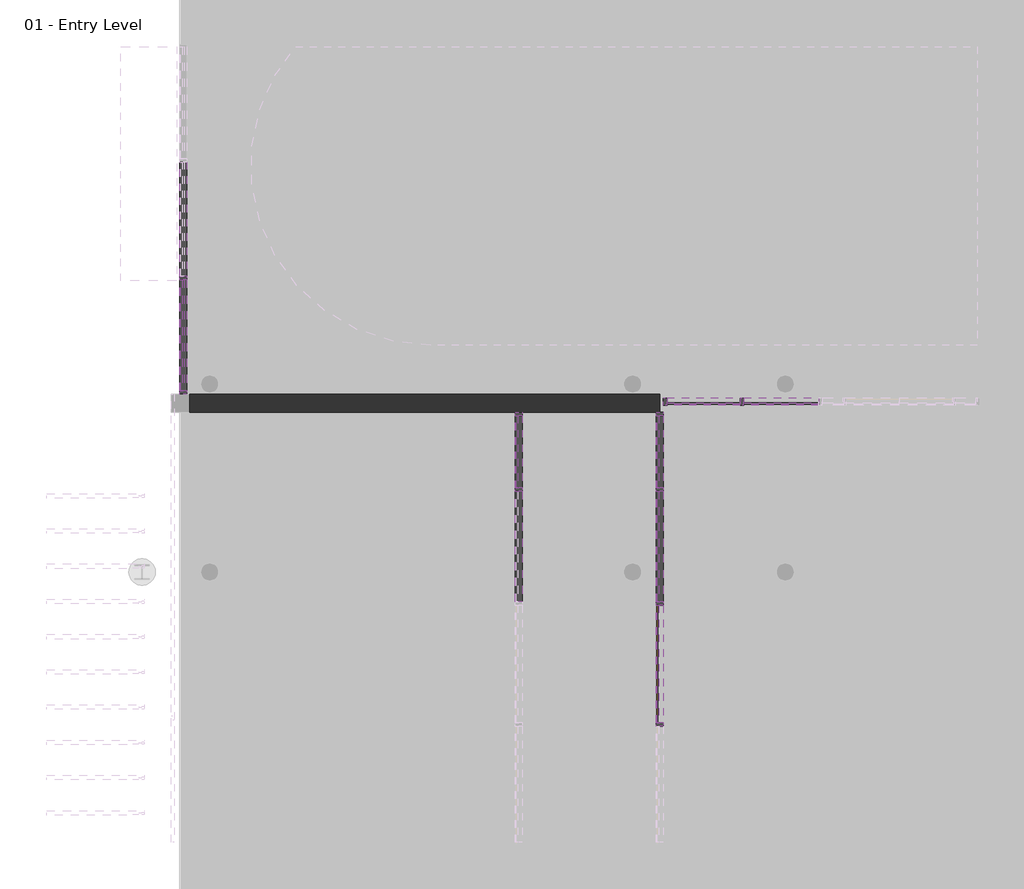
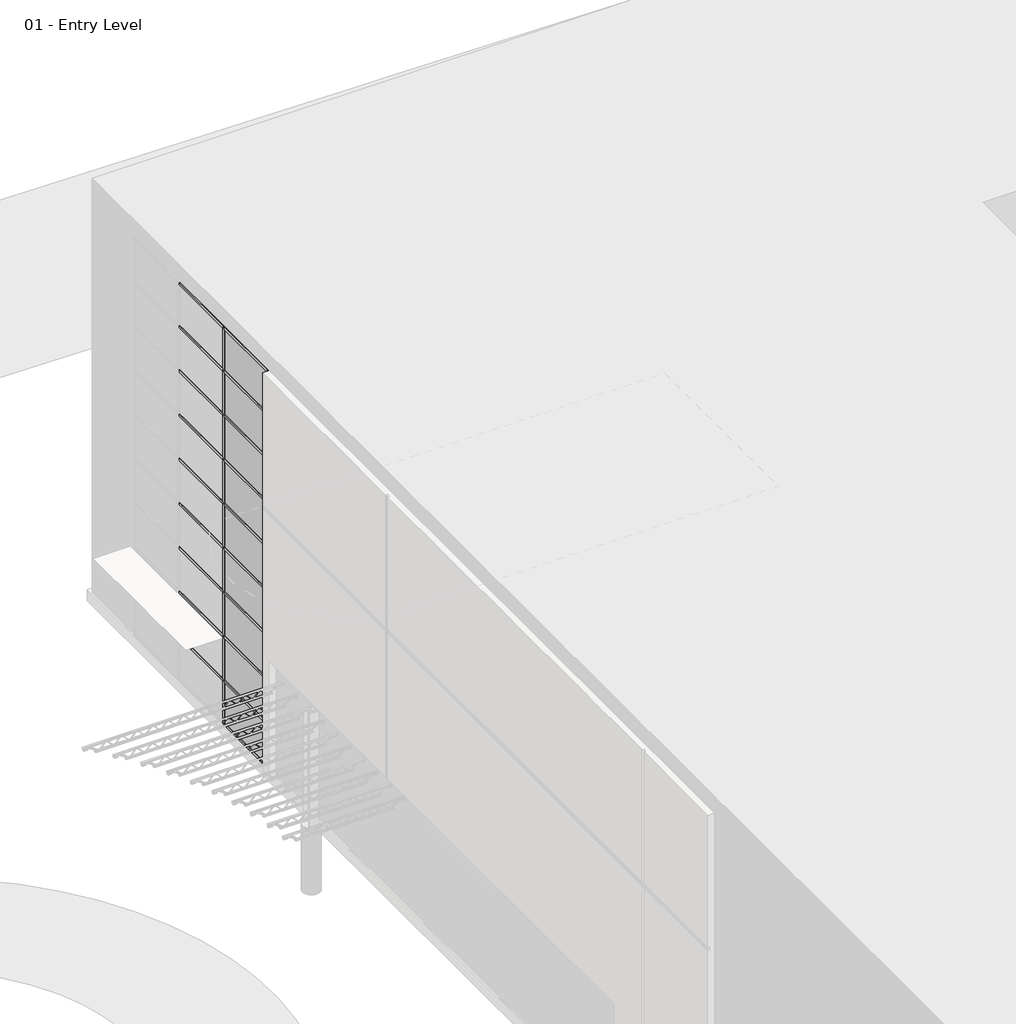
# One storey, part 23 of 34: 92 members, 24 plates, 1 door, 1 wall.
"""IFC4 building model written with IfcOpenShell, lengths in millimetres."""

from ifc_helpers import new_model, si_unit, origin, place, context, project, spatial, faceted_brep, transform, mapped, element, save
from components import curtain_wall_dbl_glass_curtain_wall_dbl_glass_d7d74fe3, member_2b49869a, member_75074519, member_18e22e2d, member_9193c932, member_391b434c, member_9e90ae50, member_71eb4692, member_a1da5be3, member_995c57f6, member_4a2c27e2, member_5d67b9fc, member_a50b3cda, member_c327c56d, member_6186cc23, member_0a82c195, member_a6658832, member_b37ae9b7, member_f95d5bf5, member_ec52078f, member_cc8ff548, member_e7b2e991, member_547128e5, member_dfe75557, member_76223ac8, member_c8c2a2fa, system_panel_glazed_652821f2, system_panel_glazed_968bda60, system_panel_glazed_6afda307, system_panel_glazed_f5a86650, system_panel_glazed_d3a4a7cd, system_panel_glazed_76019dd7, system_panel_glazed_96e4dd87, system_panel_glazed_56110c51, system_panel_glazed_ea10912d, system_panel_glazed_266ebcb8, system_panel_glazed_f95bfe21, system_panel_glazed_212f699e, system_panel_glazed_7f2d8600, system_panel_glazed_e70ec364, system_panel_solid_8d134956, system_panel_solid_ac74ffd1

model = new_model("IFC4")

# Units and contexts
model_context = context("Model", 3, world=origin())
ifc_project = project(units=[si_unit("LENGTHUNIT", "METRE", prefix="MILLI")], contexts=[model_context])

# Site, building, storey
site = spatial("IfcSite", under=ifc_project)
building = spatial("IfcBuilding", under=site)
storey = spatial("IfcBuildingStorey", under=building, Name="01 - Entry Level", Elevation=0.0)

# Door
placement = place(None, origin())
curtain_wall_dbl_glass_curtain_wall_dbl_glass_shape = curtain_wall_dbl_glass_curtain_wall_dbl_glass_d7d74fe3(model_context)
element("IfcDoor", 1, ObjectType="Curtain Wall Dbl Glass : Curtain Wall Dbl Glass", at=placement, inside=storey, context=model_context, shape_type="MappedRepresentation", body=[
    mapped(curtain_wall_dbl_glass_curtain_wall_dbl_glass_shape, transform((8421.0207476, 41071.725, 0.0), x_axis=(0.0, 1.0, 0.0), y_axis=(-1.0, 0.0, 0.0), z_axis=(0.0, 0.0, 1.0))),
])

# Members
member_shape = member_2b49869a(model_context)
element("IfcMember", 2, ObjectType="Rectangular Mullion : 2.5\" x 5\" rectangular", at=placement, inside=storey, context=model_context, shape_type="MappedRepresentation", body=[
    mapped(member_shape, transform((178.7207476, 47748.75, 9753.6), x_axis=(0.0, -1.0, 0.0), y_axis=(-1.0, 0.0, 0.0), z_axis=(0.0, 0.0, -1.0))),
])
member_2_shape = member_75074519(model_context)
element("IfcMember", 3, ObjectType="Rectangular Mullion : 2.5\" x 5\" rectangular", at=placement, inside=storey, context=model_context, shape_type="MappedRepresentation", body=[
    mapped(member_2_shape, transform((178.7207476, 45735.8, 9753.6), x_axis=(0.0, -1.0, 0.0), y_axis=(-1.0, 0.0, 0.0), z_axis=(0.0, 0.0, -1.0))),
])
member_3_shape = member_18e22e2d(model_context)
element("IfcMember", 4, ObjectType="Rectangular Mullion : 2.5\" x 5\" rectangular", at=placement, inside=storey, context=model_context, shape_type="MappedRepresentation", body=[
    mapped(member_3_shape, transform((9843.4207476, 45608.8, 2438.4), x_axis=(-1.0, 0.0, 0.0), y_axis=(0.0, 1.0, 0.0), z_axis=(0.0, 0.0, -1.0))),
])
element("IfcMember", 5, ObjectType="Rectangular Mullion : 2.5\" x 5\" rectangular", at=placement, inside=storey, context=model_context, shape_type="MappedRepresentation", body=[
    mapped(member_3_shape, transform((5982.6207476, 44087.975, 2438.4), x_axis=(0.0, 1.0, 0.0), y_axis=(1.0, 0.0, 0.0), z_axis=(0.0, 0.0, -1.0))),
])
element("IfcMember", 6, ObjectType="Rectangular Mullion : 2.5\" x 5\" rectangular", at=placement, inside=storey, context=model_context, shape_type="MappedRepresentation", body=[
    mapped(member_3_shape, transform((8421.0207476, 40023.975, 2438.4), x_axis=(0.0, 1.0, 0.0), y_axis=(1.0, 0.0, 0.0), z_axis=(0.0, 0.0, -1.0))),
])
element("IfcMember", 7, ObjectType="Rectangular Mullion : 2.5\" x 5\" rectangular", at=placement, inside=storey, context=model_context, shape_type="MappedRepresentation", body=[
    mapped(member_3_shape, transform((8421.0207476, 42119.475, 2438.4), x_axis=(0.0, 1.0, 0.0), y_axis=(1.0, 0.0, 0.0), z_axis=(0.0, 0.0, -1.0))),
])
element("IfcMember", 8, ObjectType="Rectangular Mullion : 2.5\" x 5\" rectangular", at=placement, inside=storey, context=model_context, shape_type="MappedRepresentation", body=[
    mapped(member_3_shape, transform((8421.0207476, 44087.975, 2438.4), x_axis=(0.0, 1.0, 0.0), y_axis=(1.0, 0.0, 0.0), z_axis=(0.0, 0.0, -1.0))),
])
member_4_shape = member_9193c932(model_context)
element("IfcMember", 9, ObjectType="Rectangular Mullion : 2.5\" x 5\" rectangular", at=placement, inside=storey, context=model_context, shape_type="MappedRepresentation", body=[
    mapped(member_4_shape, transform((8484.5207476, 45608.8, 2438.4), x_axis=(-1.0, 0.0, 0.0), y_axis=(0.0, 1.0, 0.0), z_axis=(0.0, 0.0, -1.0))),
])
element("IfcMember", 10, ObjectType="Rectangular Mullion : 2.5\" x 5\" rectangular", at=placement, inside=storey, context=model_context, shape_type="MappedRepresentation", body=[
    mapped(member_4_shape, transform((5982.6207476, 45427.825, 2438.4), x_axis=(0.0, 1.0, 0.0), y_axis=(1.0, 0.0, 0.0), z_axis=(0.0, 0.0, -1.0))),
])
element("IfcMember", 11, ObjectType="Rectangular Mullion : 2.5\" x 5\" rectangular", at=placement, inside=storey, context=model_context, shape_type="MappedRepresentation", body=[
    mapped(member_4_shape, transform((8421.0207476, 45427.825, 2438.4), x_axis=(0.0, 1.0, 0.0), y_axis=(1.0, 0.0, 0.0), z_axis=(0.0, 0.0, -1.0))),
])
member_5_shape = member_391b434c(model_context)
element("IfcMember", 12, ObjectType="Rectangular Mullion : 2.5\" x 5\" rectangular", at=placement, inside=storey, context=model_context, shape_type="MappedRepresentation", body=[
    mapped(member_5_shape, transform((178.7207476, 47780.5, 10972.8), x_axis=(0.0, 0.0, 1.0), y_axis=(-1.0, 0.0, 0.0), z_axis=(0.0, -1.0, 0.0))),
])
member_6_shape = member_9e90ae50(model_context)
element("IfcMember", 13, ObjectType="Rectangular Mullion : 2.5\" x 5\" rectangular", at=placement, inside=storey, context=model_context, shape_type="MappedRepresentation", body=[
    mapped(member_6_shape, transform((178.7207476, 47780.5, 1219.2), x_axis=(0.0, 0.0, 1.0), y_axis=(-1.0, 0.0, 0.0), z_axis=(0.0, -1.0, 0.0))),
])
element("IfcMember", 14, ObjectType="Rectangular Mullion : 2.5\" x 5\" rectangular", at=placement, inside=storey, context=model_context, shape_type="MappedRepresentation", body=[
    mapped(member_6_shape, transform((178.7207476, 47780.5, 2438.4), x_axis=(0.0, 0.0, 1.0), y_axis=(-1.0, 0.0, 0.0), z_axis=(0.0, -1.0, 0.0))),
])
element("IfcMember", 15, ObjectType="Rectangular Mullion : 2.5\" x 5\" rectangular", at=placement, inside=storey, context=model_context, shape_type="MappedRepresentation", body=[
    mapped(member_6_shape, transform((178.7207476, 47780.5, 3657.6), x_axis=(0.0, 0.0, 1.0), y_axis=(-1.0, 0.0, 0.0), z_axis=(0.0, -1.0, 0.0))),
])
element("IfcMember", 16, ObjectType="Rectangular Mullion : 2.5\" x 5\" rectangular", at=placement, inside=storey, context=model_context, shape_type="MappedRepresentation", body=[
    mapped(member_6_shape, transform((178.7207476, 47780.5, 4876.8), x_axis=(0.0, 0.0, 1.0), y_axis=(-1.0, 0.0, 0.0), z_axis=(0.0, -1.0, 0.0))),
])
element("IfcMember", 17, ObjectType="Rectangular Mullion : 2.5\" x 5\" rectangular", at=placement, inside=storey, context=model_context, shape_type="MappedRepresentation", body=[
    mapped(member_6_shape, transform((178.7207476, 47780.5, 6096.0), x_axis=(0.0, 0.0, 1.0), y_axis=(-1.0, 0.0, 0.0), z_axis=(0.0, -1.0, 0.0))),
])
element("IfcMember", 18, ObjectType="Rectangular Mullion : 2.5\" x 5\" rectangular", at=placement, inside=storey, context=model_context, shape_type="MappedRepresentation", body=[
    mapped(member_6_shape, transform((178.7207476, 47780.5, 7315.2), x_axis=(0.0, 0.0, 1.0), y_axis=(-1.0, 0.0, 0.0), z_axis=(0.0, -1.0, 0.0))),
])
element("IfcMember", 19, ObjectType="Rectangular Mullion : 2.5\" x 5\" rectangular", at=placement, inside=storey, context=model_context, shape_type="MappedRepresentation", body=[
    mapped(member_6_shape, transform((178.7207476, 47780.5, 8534.4), x_axis=(0.0, 0.0, 1.0), y_axis=(-1.0, 0.0, 0.0), z_axis=(0.0, -1.0, 0.0))),
])
element("IfcMember", 20, ObjectType="Rectangular Mullion : 2.5\" x 5\" rectangular", at=placement, inside=storey, context=model_context, shape_type="MappedRepresentation", body=[
    mapped(member_6_shape, transform((178.7207476, 47780.5, 9753.6), x_axis=(0.0, 0.0, 1.0), y_axis=(-1.0, 0.0, 0.0), z_axis=(0.0, -1.0, 0.0))),
])
element("IfcMember", 21, ObjectType="Rectangular Mullion : 2.5\" x 5\" rectangular", at=placement, inside=storey, context=model_context, shape_type="MappedRepresentation", body=[
    mapped(member_shape, transform((178.7207476, 47748.75, 0.0), x_axis=(0.0, -1.0, 0.0), y_axis=(-1.0, 0.0, 0.0), z_axis=(0.0, 0.0, -1.0))),
])
element("IfcMember", 22, ObjectType="Rectangular Mullion : 2.5\" x 5\" rectangular", at=placement, inside=storey, context=model_context, shape_type="MappedRepresentation", body=[
    mapped(member_shape, transform((178.7207476, 47748.75, 1219.2), x_axis=(0.0, -1.0, 0.0), y_axis=(-1.0, 0.0, 0.0), z_axis=(0.0, 0.0, -1.0))),
])
element("IfcMember", 23, ObjectType="Rectangular Mullion : 2.5\" x 5\" rectangular", at=placement, inside=storey, context=model_context, shape_type="MappedRepresentation", body=[
    mapped(member_shape, transform((178.7207476, 47748.75, 2438.4), x_axis=(0.0, -1.0, 0.0), y_axis=(-1.0, 0.0, 0.0), z_axis=(0.0, 0.0, -1.0))),
])
element("IfcMember", 24, ObjectType="Rectangular Mullion : 2.5\" x 5\" rectangular", at=placement, inside=storey, context=model_context, shape_type="MappedRepresentation", body=[
    mapped(member_shape, transform((178.7207476, 47748.75, 3657.6), x_axis=(0.0, -1.0, 0.0), y_axis=(-1.0, 0.0, 0.0), z_axis=(0.0, 0.0, -1.0))),
])
element("IfcMember", 25, ObjectType="Rectangular Mullion : 2.5\" x 5\" rectangular", at=placement, inside=storey, context=model_context, shape_type="MappedRepresentation", body=[
    mapped(member_shape, transform((178.7207476, 47748.75, 4876.8), x_axis=(0.0, -1.0, 0.0), y_axis=(-1.0, 0.0, 0.0), z_axis=(0.0, 0.0, -1.0))),
])
element("IfcMember", 26, ObjectType="Rectangular Mullion : 2.5\" x 5\" rectangular", at=placement, inside=storey, context=model_context, shape_type="MappedRepresentation", body=[
    mapped(member_shape, transform((178.7207476, 47748.75, 6096.0), x_axis=(0.0, -1.0, 0.0), y_axis=(-1.0, 0.0, 0.0), z_axis=(0.0, 0.0, -1.0))),
])
element("IfcMember", 27, ObjectType="Rectangular Mullion : 2.5\" x 5\" rectangular", at=placement, inside=storey, context=model_context, shape_type="MappedRepresentation", body=[
    mapped(member_shape, transform((178.7207476, 47748.75, 7315.2), x_axis=(0.0, -1.0, 0.0), y_axis=(-1.0, 0.0, 0.0), z_axis=(0.0, 0.0, -1.0))),
])
element("IfcMember", 28, ObjectType="Rectangular Mullion : 2.5\" x 5\" rectangular", at=placement, inside=storey, context=model_context, shape_type="MappedRepresentation", body=[
    mapped(member_shape, transform((178.7207476, 47748.75, 8534.4), x_axis=(0.0, -1.0, 0.0), y_axis=(-1.0, 0.0, 0.0), z_axis=(0.0, 0.0, -1.0))),
])
element("IfcMember", 29, ObjectType="Rectangular Mullion : 2.5\" x 5\" rectangular", at=placement, inside=storey, context=model_context, shape_type="MappedRepresentation", body=[
    mapped(member_shape, transform((5982.6207476, 44087.975, 0.0), x_axis=(0.0, 1.0, 0.0), y_axis=(1.0, 0.0, 0.0), z_axis=(0.0, 0.0, -1.0))),
])
element("IfcMember", 30, ObjectType="Rectangular Mullion : 2.5\" x 5\" rectangular", at=placement, inside=storey, context=model_context, shape_type="MappedRepresentation", body=[
    mapped(member_shape, transform((8421.0207476, 42119.475, 0.0), x_axis=(0.0, 1.0, 0.0), y_axis=(1.0, 0.0, 0.0), z_axis=(0.0, 0.0, -1.0))),
])
element("IfcMember", 31, ObjectType="Rectangular Mullion : 2.5\" x 5\" rectangular", at=placement, inside=storey, context=model_context, shape_type="MappedRepresentation", body=[
    mapped(member_shape, transform((8421.0207476, 44087.975, 0.0), x_axis=(0.0, 1.0, 0.0), y_axis=(1.0, 0.0, 0.0), z_axis=(0.0, 0.0, -1.0))),
])
element("IfcMember", 32, ObjectType="Rectangular Mullion : 2.5\" x 5\" rectangular", at=placement, inside=storey, context=model_context, shape_type="MappedRepresentation", body=[
    mapped(member_2_shape, transform((178.7207476, 45735.8, 0.0), x_axis=(0.0, -1.0, 0.0), y_axis=(-1.0, 0.0, 0.0), z_axis=(0.0, 0.0, -1.0))),
])
element("IfcMember", 33, ObjectType="Rectangular Mullion : 2.5\" x 5\" rectangular", at=placement, inside=storey, context=model_context, shape_type="MappedRepresentation", body=[
    mapped(member_2_shape, transform((5982.6207476, 45427.825, 0.0), x_axis=(0.0, 1.0, 0.0), y_axis=(1.0, 0.0, 0.0), z_axis=(0.0, 0.0, -1.0))),
])
element("IfcMember", 34, ObjectType="Rectangular Mullion : 2.5\" x 5\" rectangular", at=placement, inside=storey, context=model_context, shape_type="MappedRepresentation", body=[
    mapped(member_2_shape, transform((8421.0207476, 45427.825, 0.0), x_axis=(0.0, 1.0, 0.0), y_axis=(1.0, 0.0, 0.0), z_axis=(0.0, 0.0, -1.0))),
])
element("IfcMember", 35, ObjectType="Rectangular Mullion : 2.5\" x 5\" rectangular", at=placement, inside=storey, context=model_context, shape_type="MappedRepresentation", body=[
    mapped(member_2_shape, transform((178.7207476, 45735.8, 1219.2), x_axis=(0.0, -1.0, 0.0), y_axis=(-1.0, 0.0, 0.0), z_axis=(0.0, 0.0, -1.0))),
])
element("IfcMember", 36, ObjectType="Rectangular Mullion : 2.5\" x 5\" rectangular", at=placement, inside=storey, context=model_context, shape_type="MappedRepresentation", body=[
    mapped(member_2_shape, transform((178.7207476, 45735.8, 2438.4), x_axis=(0.0, -1.0, 0.0), y_axis=(-1.0, 0.0, 0.0), z_axis=(0.0, 0.0, -1.0))),
])
element("IfcMember", 37, ObjectType="Rectangular Mullion : 2.5\" x 5\" rectangular", at=placement, inside=storey, context=model_context, shape_type="MappedRepresentation", body=[
    mapped(member_2_shape, transform((178.7207476, 45735.8, 3657.6), x_axis=(0.0, -1.0, 0.0), y_axis=(-1.0, 0.0, 0.0), z_axis=(0.0, 0.0, -1.0))),
])
element("IfcMember", 38, ObjectType="Rectangular Mullion : 2.5\" x 5\" rectangular", at=placement, inside=storey, context=model_context, shape_type="MappedRepresentation", body=[
    mapped(member_2_shape, transform((178.7207476, 45735.8, 4876.8), x_axis=(0.0, -1.0, 0.0), y_axis=(-1.0, 0.0, 0.0), z_axis=(0.0, 0.0, -1.0))),
])
element("IfcMember", 39, ObjectType="Rectangular Mullion : 2.5\" x 5\" rectangular", at=placement, inside=storey, context=model_context, shape_type="MappedRepresentation", body=[
    mapped(member_2_shape, transform((178.7207476, 45735.8, 6096.0), x_axis=(0.0, -1.0, 0.0), y_axis=(-1.0, 0.0, 0.0), z_axis=(0.0, 0.0, -1.0))),
])
element("IfcMember", 40, ObjectType="Rectangular Mullion : 2.5\" x 5\" rectangular", at=placement, inside=storey, context=model_context, shape_type="MappedRepresentation", body=[
    mapped(member_2_shape, transform((178.7207476, 45735.8, 7315.2), x_axis=(0.0, -1.0, 0.0), y_axis=(-1.0, 0.0, 0.0), z_axis=(0.0, 0.0, -1.0))),
])
element("IfcMember", 41, ObjectType="Rectangular Mullion : 2.5\" x 5\" rectangular", at=placement, inside=storey, context=model_context, shape_type="MappedRepresentation", body=[
    mapped(member_2_shape, transform((178.7207476, 45735.8, 8534.4), x_axis=(0.0, -1.0, 0.0), y_axis=(-1.0, 0.0, 0.0), z_axis=(0.0, 0.0, -1.0))),
])
element("IfcMember", 42, ObjectType="Rectangular Mullion : 2.5\" x 5\" rectangular", at=placement, inside=storey, context=model_context, shape_type="MappedRepresentation", body=[
    mapped(member_shape, transform((8421.0207476, 40023.975, 0.0), x_axis=(0.0, 1.0, 0.0), y_axis=(1.0, 0.0, 0.0), z_axis=(0.0, 0.0, -1.0))),
])
member_7_shape = member_71eb4692(model_context)
element("IfcMember", 43, ObjectType="Rectangular Mullion : 2.5\" x 5\" rectangular", at=placement, inside=storey, context=model_context, shape_type="MappedRepresentation", body=[
    mapped(member_7_shape, transform((5982.6207476, 45364.325, 3403.6), x_axis=(0.0, 0.0, 1.0), y_axis=(1.0, 0.0, 0.0), z_axis=(0.0, 1.0, 0.0))),
])
element("IfcMember", 44, ObjectType="Rectangular Mullion : 2.5\" x 5\" rectangular", at=placement, inside=storey, context=model_context, shape_type="MappedRepresentation", body=[
    mapped(member_7_shape, transform((8421.0207476, 45364.325, 3403.6), x_axis=(0.0, 0.0, 1.0), y_axis=(1.0, 0.0, 0.0), z_axis=(0.0, 1.0, 0.0))),
])
element("IfcMember", 45, ObjectType="Rectangular Mullion : 2.5\" x 5\" rectangular", at=placement, inside=storey, context=model_context, shape_type="MappedRepresentation", body=[
    mapped(member_7_shape, transform((5982.6207476, 44119.725, 0.0), x_axis=(0.0, 0.0, -1.0), y_axis=(1.0, 0.0, 0.0), z_axis=(0.0, -1.0, 0.0))),
])
element("IfcMember", 46, ObjectType="Rectangular Mullion : 2.5\" x 5\" rectangular", at=placement, inside=storey, context=model_context, shape_type="MappedRepresentation", body=[
    mapped(member_7_shape, transform((8421.0207476, 44119.725, 0.0), x_axis=(0.0, 0.0, -1.0), y_axis=(1.0, 0.0, 0.0), z_axis=(0.0, -1.0, 0.0))),
])
member_8_shape = member_a1da5be3(model_context)
element("IfcMember", 47, ObjectType="Rectangular Mullion : 2.5\" x 5\" rectangular", at=placement, inside=storey, context=model_context, shape_type="MappedRepresentation", body=[
    mapped(member_8_shape, transform((5982.6207476, 45364.325, 1219.2), x_axis=(0.0, 0.0, 1.0), y_axis=(1.0, 0.0, 0.0), z_axis=(0.0, 1.0, 0.0))),
])
element("IfcMember", 48, ObjectType="Rectangular Mullion : 2.5\" x 5\" rectangular", at=placement, inside=storey, context=model_context, shape_type="MappedRepresentation", body=[
    mapped(member_8_shape, transform((5982.6207476, 45364.325, 2438.4), x_axis=(0.0, 0.0, 1.0), y_axis=(1.0, 0.0, 0.0), z_axis=(0.0, 1.0, 0.0))),
])
element("IfcMember", 49, ObjectType="Rectangular Mullion : 2.5\" x 5\" rectangular", at=placement, inside=storey, context=model_context, shape_type="MappedRepresentation", body=[
    mapped(member_8_shape, transform((8421.0207476, 45364.325, 1219.2), x_axis=(0.0, 0.0, 1.0), y_axis=(1.0, 0.0, 0.0), z_axis=(0.0, 1.0, 0.0))),
])
element("IfcMember", 50, ObjectType="Rectangular Mullion : 2.5\" x 5\" rectangular", at=placement, inside=storey, context=model_context, shape_type="MappedRepresentation", body=[
    mapped(member_8_shape, transform((8421.0207476, 45364.325, 2438.4), x_axis=(0.0, 0.0, 1.0), y_axis=(1.0, 0.0, 0.0), z_axis=(0.0, 1.0, 0.0))),
])
member_9_shape = member_995c57f6(model_context)
element("IfcMember", 51, ObjectType="Rectangular Mullion : 2.5\" x 5\" rectangular", at=placement, inside=storey, context=model_context, shape_type="MappedRepresentation", body=[
    mapped(member_9_shape, transform((178.7207476, 45799.3, 10972.8), x_axis=(0.0, 0.0, 1.0), y_axis=(-1.0, 0.0, 0.0), z_axis=(0.0, -1.0, 0.0))),
])
element("IfcMember", 52, ObjectType="Rectangular Mullion : 2.5\" x 5\" rectangular", at=placement, inside=storey, context=model_context, shape_type="MappedRepresentation", body=[
    mapped(member_9_shape, transform((178.7207476, 47717.0, 0.0), x_axis=(0.0, 0.0, -1.0), y_axis=(-1.0, 0.0, 0.0), z_axis=(0.0, 1.0, 0.0))),
])
member_10_shape = member_4a2c27e2(model_context)
element("IfcMember", 53, ObjectType="Rectangular Mullion : 2.5\" x 5\" rectangular", at=placement, inside=storey, context=model_context, shape_type="MappedRepresentation", body=[
    mapped(member_10_shape, transform((178.7207476, 45799.3, 1219.2), x_axis=(0.0, 0.0, 1.0), y_axis=(-1.0, 0.0, 0.0), z_axis=(0.0, -1.0, 0.0))),
])
element("IfcMember", 54, ObjectType="Rectangular Mullion : 2.5\" x 5\" rectangular", at=placement, inside=storey, context=model_context, shape_type="MappedRepresentation", body=[
    mapped(member_10_shape, transform((178.7207476, 45799.3, 2438.4), x_axis=(0.0, 0.0, 1.0), y_axis=(-1.0, 0.0, 0.0), z_axis=(0.0, -1.0, 0.0))),
])
element("IfcMember", 55, ObjectType="Rectangular Mullion : 2.5\" x 5\" rectangular", at=placement, inside=storey, context=model_context, shape_type="MappedRepresentation", body=[
    mapped(member_10_shape, transform((178.7207476, 45799.3, 3657.6), x_axis=(0.0, 0.0, 1.0), y_axis=(-1.0, 0.0, 0.0), z_axis=(0.0, -1.0, 0.0))),
])
element("IfcMember", 56, ObjectType="Rectangular Mullion : 2.5\" x 5\" rectangular", at=placement, inside=storey, context=model_context, shape_type="MappedRepresentation", body=[
    mapped(member_10_shape, transform((178.7207476, 45799.3, 4876.8), x_axis=(0.0, 0.0, 1.0), y_axis=(-1.0, 0.0, 0.0), z_axis=(0.0, -1.0, 0.0))),
])
element("IfcMember", 57, ObjectType="Rectangular Mullion : 2.5\" x 5\" rectangular", at=placement, inside=storey, context=model_context, shape_type="MappedRepresentation", body=[
    mapped(member_10_shape, transform((178.7207476, 45799.3, 6096.0), x_axis=(0.0, 0.0, 1.0), y_axis=(-1.0, 0.0, 0.0), z_axis=(0.0, -1.0, 0.0))),
])
element("IfcMember", 58, ObjectType="Rectangular Mullion : 2.5\" x 5\" rectangular", at=placement, inside=storey, context=model_context, shape_type="MappedRepresentation", body=[
    mapped(member_10_shape, transform((178.7207476, 45799.3, 7315.2), x_axis=(0.0, 0.0, 1.0), y_axis=(-1.0, 0.0, 0.0), z_axis=(0.0, -1.0, 0.0))),
])
element("IfcMember", 59, ObjectType="Rectangular Mullion : 2.5\" x 5\" rectangular", at=placement, inside=storey, context=model_context, shape_type="MappedRepresentation", body=[
    mapped(member_10_shape, transform((178.7207476, 45799.3, 8534.4), x_axis=(0.0, 0.0, 1.0), y_axis=(-1.0, 0.0, 0.0), z_axis=(0.0, -1.0, 0.0))),
])
element("IfcMember", 60, ObjectType="Rectangular Mullion : 2.5\" x 5\" rectangular", at=placement, inside=storey, context=model_context, shape_type="MappedRepresentation", body=[
    mapped(member_10_shape, transform((178.7207476, 45799.3, 9753.6), x_axis=(0.0, 0.0, 1.0), y_axis=(-1.0, 0.0, 0.0), z_axis=(0.0, -1.0, 0.0))),
])
member_11_shape = member_5d67b9fc(model_context)
element("IfcMember", 61, ObjectType="Rectangular Mullion : 2.5\" x 5\" rectangular", at=placement, inside=storey, context=model_context, shape_type="MappedRepresentation", body=[
    mapped(member_11_shape, transform((8421.0207476, 40023.975, 2165.35), x_axis=(0.0, 1.0, 0.0), y_axis=(1.0, 0.0, 0.0), z_axis=(0.0, 0.0, -1.0))),
])
element("IfcMember", 62, ObjectType="Rectangular Mullion : 2.5\" x 5\" rectangular", at=placement, inside=storey, context=model_context, shape_type="MappedRepresentation", body=[
    mapped(member_11_shape, transform((8421.0207476, 42119.475, 2165.35), x_axis=(0.0, 1.0, 0.0), y_axis=(1.0, 0.0, 0.0), z_axis=(0.0, 0.0, -1.0))),
])
member_12_shape = member_a50b3cda(model_context)
element("IfcMember", 63, ObjectType="Rectangular Mullion : 2.5\" x 5\" rectangular", at=placement, inside=storey, context=model_context, shape_type="MappedRepresentation", body=[
    mapped(member_12_shape, transform((8484.5207476, 45608.8, 0.0), x_axis=(-1.0, 0.0, 0.0), y_axis=(0.0, 1.0, 0.0), z_axis=(0.0, 0.0, -1.0))),
])
member_13_shape = member_c327c56d(model_context)
element("IfcMember", 64, ObjectType="Rectangular Mullion : 2.5\" x 5\" rectangular", at=placement, inside=storey, context=model_context, shape_type="MappedRepresentation", body=[
    mapped(member_13_shape, transform((8484.5207476, 45608.8, 2165.35), x_axis=(-1.0, 0.0, 0.0), y_axis=(0.0, 1.0, 0.0), z_axis=(0.0, 0.0, -1.0))),
])
element("IfcMember", 65, ObjectType="Rectangular Mullion : 2.5\" x 5\" rectangular", at=placement, inside=storey, context=model_context, shape_type="MappedRepresentation", body=[
    mapped(member_13_shape, transform((5982.6207476, 45427.825, 2165.35), x_axis=(0.0, 1.0, 0.0), y_axis=(1.0, 0.0, 0.0), z_axis=(0.0, 0.0, -1.0))),
])
element("IfcMember", 66, ObjectType="Rectangular Mullion : 2.5\" x 5\" rectangular", at=placement, inside=storey, context=model_context, shape_type="MappedRepresentation", body=[
    mapped(member_13_shape, transform((8421.0207476, 45427.825, 2165.35), x_axis=(0.0, 1.0, 0.0), y_axis=(1.0, 0.0, 0.0), z_axis=(0.0, 0.0, -1.0))),
])
member_14_shape = member_6186cc23(model_context)
element("IfcMember", 67, ObjectType="Rectangular Mullion : 2.5\" x 5\" rectangular", at=placement, inside=storey, context=model_context, shape_type="MappedRepresentation", body=[
    mapped(member_14_shape, transform((9843.4207476, 45608.8, 0.0), x_axis=(-1.0, 0.0, 0.0), y_axis=(0.0, 1.0, 0.0), z_axis=(0.0, 0.0, -1.0))),
])
element("IfcMember", 68, ObjectType="Rectangular Mullion : 2.5\" x 5\" rectangular", at=placement, inside=storey, context=model_context, shape_type="MappedRepresentation", body=[
    mapped(member_11_shape, transform((9843.4207476, 45608.8, 2165.35), x_axis=(-1.0, 0.0, 0.0), y_axis=(0.0, 1.0, 0.0), z_axis=(0.0, 0.0, -1.0))),
])
element("IfcMember", 69, ObjectType="Rectangular Mullion : 2.5\" x 5\" rectangular", at=placement, inside=storey, context=model_context, shape_type="MappedRepresentation", body=[
    mapped(member_11_shape, transform((5982.6207476, 44087.975, 2165.35), x_axis=(0.0, 1.0, 0.0), y_axis=(1.0, 0.0, 0.0), z_axis=(0.0, 0.0, -1.0))),
])
element("IfcMember", 70, ObjectType="Rectangular Mullion : 2.5\" x 5\" rectangular", at=placement, inside=storey, context=model_context, shape_type="MappedRepresentation", body=[
    mapped(member_11_shape, transform((8421.0207476, 44087.975, 2165.35), x_axis=(0.0, 1.0, 0.0), y_axis=(1.0, 0.0, 0.0), z_axis=(0.0, 0.0, -1.0))),
])
member_15_shape = member_0a82c195(model_context)
element("IfcMember", 71, ObjectType="Rectangular Mullion : 2.5\" x 5\" rectangular", at=placement, inside=storey, context=model_context, shape_type="MappedRepresentation", body=[
    mapped(member_15_shape, transform((8421.0207476, 42087.725, 3403.6), x_axis=(0.0, 0.0, 1.0), y_axis=(1.0, 0.0, 0.0), z_axis=(0.0, 1.0, 0.0))),
])
member_16_shape = member_a6658832(model_context)
element("IfcMember", 72, ObjectType="Rectangular Mullion : 2.5\" x 5\" rectangular", at=placement, inside=storey, context=model_context, shape_type="MappedRepresentation", body=[
    mapped(member_16_shape, transform((5982.6207476, 44056.225, 3403.6), x_axis=(0.0, 0.0, 1.0), y_axis=(1.0, 0.0, 0.0), z_axis=(0.0, 1.0, 0.0))),
])
element("IfcMember", 73, ObjectType="Rectangular Mullion : 2.5\" x 5\" rectangular", at=placement, inside=storey, context=model_context, shape_type="MappedRepresentation", body=[
    mapped(member_16_shape, transform((8421.0207476, 44056.225, 3403.6), x_axis=(0.0, 0.0, 1.0), y_axis=(1.0, 0.0, 0.0), z_axis=(0.0, 1.0, 0.0))),
])
element("IfcMember", 74, ObjectType="Rectangular Mullion : 2.5\" x 5\" rectangular", at=placement, inside=storey, context=model_context, shape_type="MappedRepresentation", body=[
    mapped(member_16_shape, transform((8421.0207476, 42151.225, 0.0), x_axis=(0.0, 0.0, -1.0), y_axis=(1.0, 0.0, 0.0), z_axis=(0.0, -1.0, 0.0))),
])
member_17_shape = member_b37ae9b7(model_context)
element("IfcMember", 75, ObjectType="Rectangular Mullion : 2.5\" x 5\" rectangular", at=placement, inside=storey, context=model_context, shape_type="MappedRepresentation", body=[
    mapped(member_17_shape, transform((5982.6207476, 44056.225, 1219.2), x_axis=(0.0, 0.0, 1.0), y_axis=(1.0, 0.0, 0.0), z_axis=(0.0, 1.0, 0.0))),
])
element("IfcMember", 76, ObjectType="Rectangular Mullion : 2.5\" x 5\" rectangular", at=placement, inside=storey, context=model_context, shape_type="MappedRepresentation", body=[
    mapped(member_17_shape, transform((5982.6207476, 44056.225, 2438.4), x_axis=(0.0, 0.0, 1.0), y_axis=(1.0, 0.0, 0.0), z_axis=(0.0, 1.0, 0.0))),
])
element("IfcMember", 77, ObjectType="Rectangular Mullion : 2.5\" x 5\" rectangular", at=placement, inside=storey, context=model_context, shape_type="MappedRepresentation", body=[
    mapped(member_17_shape, transform((8421.0207476, 44056.225, 1219.2), x_axis=(0.0, 0.0, 1.0), y_axis=(1.0, 0.0, 0.0), z_axis=(0.0, 1.0, 0.0))),
])
element("IfcMember", 78, ObjectType="Rectangular Mullion : 2.5\" x 5\" rectangular", at=placement, inside=storey, context=model_context, shape_type="MappedRepresentation", body=[
    mapped(member_17_shape, transform((8421.0207476, 44056.225, 2438.4), x_axis=(0.0, 0.0, 1.0), y_axis=(1.0, 0.0, 0.0), z_axis=(0.0, 1.0, 0.0))),
])
member_18_shape = member_f95d5bf5(model_context)
element("IfcMember", 79, ObjectType="Rectangular Mullion : 2.5\" x 5\" rectangular", at=placement, inside=storey, context=model_context, shape_type="MappedRepresentation", body=[
    mapped(member_18_shape, transform((8421.0207476, 42087.725, 2438.4), x_axis=(0.0, 0.0, 1.0), y_axis=(1.0, 0.0, 0.0), z_axis=(0.0, 1.0, 0.0))),
])
element("IfcMember", 80, ObjectType="Rectangular Mullion : 2.5\" x 5\" rectangular", at=placement, inside=storey, context=model_context, shape_type="MappedRepresentation", body=[
    mapped(member_18_shape, transform((8421.0207476, 42087.725, 2165.35), x_axis=(0.0, 0.0, 1.0), y_axis=(1.0, 0.0, 0.0), z_axis=(0.0, 1.0, 0.0))),
])
member_19_shape = member_ec52078f(model_context)
element("IfcMember", 81, ObjectType="Rectangular Mullion : 2.5\" x 5\" rectangular", at=placement, inside=storey, context=model_context, shape_type="MappedRepresentation", body=[
    mapped(member_19_shape, transform((5982.6207476, 44087.975, 1219.2), x_axis=(0.0, 1.0, 0.0), y_axis=(1.0, 0.0, 0.0), z_axis=(0.0, 0.0, -1.0))),
])
element("IfcMember", 82, ObjectType="Rectangular Mullion : 2.5\" x 5\" rectangular", at=placement, inside=storey, context=model_context, shape_type="MappedRepresentation", body=[
    mapped(member_19_shape, transform((8421.0207476, 44087.975, 1219.2), x_axis=(0.0, 1.0, 0.0), y_axis=(1.0, 0.0, 0.0), z_axis=(0.0, 0.0, -1.0))),
])
element("IfcMember", 83, ObjectType="Rectangular Mullion : 2.5\" x 5\" rectangular", at=placement, inside=storey, context=model_context, shape_type="MappedRepresentation", body=[
    mapped(member_19_shape, transform((8421.0207476, 40023.975, 1219.2), x_axis=(0.0, 1.0, 0.0), y_axis=(1.0, 0.0, 0.0), z_axis=(0.0, 0.0, -1.0))),
])
element("IfcMember", 84, ObjectType="Rectangular Mullion : 2.5\" x 5\" rectangular", at=placement, inside=storey, context=model_context, shape_type="MappedRepresentation", body=[
    mapped(member_19_shape, transform((8421.0207476, 42119.475, 1219.2), x_axis=(0.0, 1.0, 0.0), y_axis=(1.0, 0.0, 0.0), z_axis=(0.0, 0.0, -1.0))),
])
member_20_shape = member_cc8ff548(model_context)
element("IfcMember", 85, ObjectType="Rectangular Mullion : 2.5\" x 5\" rectangular", at=placement, inside=storey, context=model_context, shape_type="MappedRepresentation", body=[
    mapped(member_20_shape, transform((5982.6207476, 45427.825, 1219.2), x_axis=(0.0, 1.0, 0.0), y_axis=(1.0, 0.0, 0.0), z_axis=(0.0, 0.0, -1.0))),
])
element("IfcMember", 86, ObjectType="Rectangular Mullion : 2.5\" x 5\" rectangular", at=placement, inside=storey, context=model_context, shape_type="MappedRepresentation", body=[
    mapped(member_20_shape, transform((8421.0207476, 45427.825, 1219.2), x_axis=(0.0, 1.0, 0.0), y_axis=(1.0, 0.0, 0.0), z_axis=(0.0, 0.0, -1.0))),
])
member_21_shape = member_e7b2e991(model_context)
element("IfcMember", 87, ObjectType="Rectangular Mullion : 2.5\" x 5\" rectangular", at=placement, inside=storey, context=model_context, shape_type="MappedRepresentation", body=[
    mapped(member_21_shape, transform((8548.0207476, 45608.8, 3403.6), x_axis=(0.0, 0.0, 1.0), y_axis=(0.0, 1.0, 0.0), z_axis=(-1.0, 0.0, 0.0))),
])
element("IfcMember", 88, ObjectType="Rectangular Mullion : 2.5\" x 5\" rectangular", at=placement, inside=storey, context=model_context, shape_type="MappedRepresentation", body=[
    mapped(member_21_shape, transform((9811.6707476, 45608.8, 0.0), x_axis=(0.0, 0.0, -1.0), y_axis=(0.0, 1.0, 0.0), z_axis=(1.0, 0.0, 0.0))),
])
member_22_shape = member_547128e5(model_context)
element("IfcMember", 89, ObjectType="Rectangular Mullion : 2.5\" x 5\" rectangular", at=placement, inside=storey, context=model_context, shape_type="MappedRepresentation", body=[
    mapped(member_22_shape, transform((9875.1707476, 45608.8, 3403.6), x_axis=(0.0, 0.0, 1.0), y_axis=(0.0, 1.0, 0.0), z_axis=(-1.0, 0.0, 0.0))),
])
member_23_shape = member_dfe75557(model_context)
element("IfcMember", 90, ObjectType="Rectangular Mullion : 2.5\" x 5\" rectangular", at=placement, inside=storey, context=model_context, shape_type="MappedRepresentation", body=[
    mapped(member_23_shape, transform((11234.0707476, 45608.8, 3403.6), x_axis=(0.0, 0.0, 1.0), y_axis=(0.0, 1.0, 0.0), z_axis=(-1.0, 0.0, 0.0))),
])
element("IfcMember", 91, ObjectType="Rectangular Mullion : 2.5\" x 5\" rectangular", at=placement, inside=storey, context=model_context, shape_type="MappedRepresentation", body=[
    mapped(member_22_shape, transform((11170.5707476, 45608.8, 0.0), x_axis=(0.0, 0.0, -1.0), y_axis=(0.0, 1.0, 0.0), z_axis=(1.0, 0.0, 0.0))),
])
member_24_shape = member_76223ac8(model_context)
element("IfcMember", 92, ObjectType="Rectangular Mullion : 2.5\" x 5\" rectangular", at=placement, inside=storey, context=model_context, shape_type="MappedRepresentation", body=[
    mapped(member_24_shape, transform((8548.0207476, 45608.8, 2438.4), x_axis=(0.0, 0.0, 1.0), y_axis=(0.0, 1.0, 0.0), z_axis=(-1.0, 0.0, 0.0))),
])
member_25_shape = member_c8c2a2fa(model_context)
element("IfcMember", 93, ObjectType="Rectangular Mullion : 2.5\" x 5\" rectangular", at=placement, inside=storey, context=model_context, shape_type="MappedRepresentation", body=[
    mapped(member_25_shape, transform((9875.1707476, 45608.8, 2438.4), x_axis=(0.0, 0.0, 1.0), y_axis=(0.0, 1.0, 0.0), z_axis=(-1.0, 0.0, 0.0))),
])

# Plates
system_panel_glazed_shape = system_panel_glazed_652821f2(model_context)
element("IfcPlate", 94, ObjectType="System Panel : Glazed", at=placement, inside=storey, context=model_context, shape_type="MappedRepresentation", body=[
    mapped(system_panel_glazed_shape, transform((5982.6207476, 44742.025, 63.5), x_axis=(0.0, 1.0, 0.0), y_axis=(-1.0, 0.0, 0.0), z_axis=(0.0, 0.0, 1.0))),
])
element("IfcPlate", 95, ObjectType="System Panel : Glazed", at=placement, inside=storey, context=model_context, shape_type="MappedRepresentation", body=[
    mapped(system_panel_glazed_shape, transform((8421.0207476, 44742.025, 63.5), x_axis=(0.0, 1.0, 0.0), y_axis=(-1.0, 0.0, 0.0), z_axis=(0.0, 0.0, 1.0))),
])
system_panel_glazed_2_shape = system_panel_glazed_968bda60(model_context)
element("IfcPlate", 96, ObjectType="System Panel : Glazed", at=placement, inside=storey, context=model_context, shape_type="MappedRepresentation", body=[
    mapped(system_panel_glazed_2_shape, transform((5982.6207476, 44742.025, 2470.15), x_axis=(0.0, 1.0, 0.0), y_axis=(-1.0, 0.0, 0.0), z_axis=(0.0, 0.0, 1.0))),
])
element("IfcPlate", 97, ObjectType="System Panel : Glazed", at=placement, inside=storey, context=model_context, shape_type="MappedRepresentation", body=[
    mapped(system_panel_glazed_2_shape, transform((8421.0207476, 44742.025, 2470.15), x_axis=(0.0, 1.0, 0.0), y_axis=(-1.0, 0.0, 0.0), z_axis=(0.0, 0.0, 1.0))),
])
system_panel_glazed_3_shape = system_panel_glazed_6afda307(model_context)
element("IfcPlate", 98, ObjectType="System Panel : Glazed", at=placement, inside=storey, context=model_context, shape_type="MappedRepresentation", body=[
    mapped(system_panel_glazed_3_shape, transform((178.7207476, 46758.15, 63.5), x_axis=(0.0, -1.0, 0.0), y_axis=(1.0, 0.0, 0.0), z_axis=(0.0, 0.0, 1.0))),
])
system_panel_glazed_4_shape = system_panel_glazed_f5a86650(model_context)
element("IfcPlate", 99, ObjectType="System Panel : Glazed", at=placement, inside=storey, context=model_context, shape_type="MappedRepresentation", body=[
    mapped(system_panel_glazed_4_shape, transform((178.7207476, 46758.15, 1250.95), x_axis=(0.0, -1.0, 0.0), y_axis=(1.0, 0.0, 0.0), z_axis=(0.0, 0.0, 1.0))),
])
element("IfcPlate", 100, ObjectType="System Panel : Glazed", at=placement, inside=storey, context=model_context, shape_type="MappedRepresentation", body=[
    mapped(system_panel_glazed_4_shape, transform((178.7207476, 46758.15, 3689.35), x_axis=(0.0, -1.0, 0.0), y_axis=(1.0, 0.0, 0.0), z_axis=(0.0, 0.0, 1.0))),
])
element("IfcPlate", 101, ObjectType="System Panel : Glazed", at=placement, inside=storey, context=model_context, shape_type="MappedRepresentation", body=[
    mapped(system_panel_glazed_4_shape, transform((178.7207476, 46758.15, 4908.55), x_axis=(0.0, -1.0, 0.0), y_axis=(1.0, 0.0, 0.0), z_axis=(0.0, 0.0, 1.0))),
])
element("IfcPlate", 102, ObjectType="System Panel : Glazed", at=placement, inside=storey, context=model_context, shape_type="MappedRepresentation", body=[
    mapped(system_panel_glazed_4_shape, transform((178.7207476, 46758.15, 7346.95), x_axis=(0.0, -1.0, 0.0), y_axis=(1.0, 0.0, 0.0), z_axis=(0.0, 0.0, 1.0))),
])
element("IfcPlate", 103, ObjectType="System Panel : Glazed", at=placement, inside=storey, context=model_context, shape_type="MappedRepresentation", body=[
    mapped(system_panel_glazed_4_shape, transform((178.7207476, 46758.15, 8566.15), x_axis=(0.0, -1.0, 0.0), y_axis=(1.0, 0.0, 0.0), z_axis=(0.0, 0.0, 1.0))),
])
system_panel_glazed_5_shape = system_panel_glazed_d3a4a7cd(model_context)
element("IfcPlate", 104, ObjectType="System Panel : Glazed", at=placement, inside=storey, context=model_context, shape_type="MappedRepresentation", body=[
    mapped(system_panel_glazed_5_shape, transform((8421.0207476, 43103.725, 63.5), x_axis=(0.0, 1.0, 0.0), y_axis=(-1.0, 0.0, 0.0), z_axis=(0.0, 0.0, 1.0))),
])
system_panel_glazed_6_shape = system_panel_glazed_76019dd7(model_context)
element("IfcPlate", 105, ObjectType="System Panel : Glazed", at=placement, inside=storey, context=model_context, shape_type="MappedRepresentation", body=[
    mapped(system_panel_glazed_6_shape, transform((8421.0207476, 41071.725, 2470.15), x_axis=(0.0, 1.0, 0.0), y_axis=(-1.0, 0.0, 0.0), z_axis=(0.0, 0.0, 1.0))),
])
system_panel_glazed_7_shape = system_panel_glazed_96e4dd87(model_context)
element("IfcPlate", 106, ObjectType="System Panel : Glazed", at=placement, inside=storey, context=model_context, shape_type="MappedRepresentation", body=[
    mapped(system_panel_glazed_7_shape, transform((8421.0207476, 43103.725, 2470.15), x_axis=(0.0, 1.0, 0.0), y_axis=(-1.0, 0.0, 0.0), z_axis=(0.0, 0.0, 1.0))),
])
system_panel_glazed_8_shape = system_panel_glazed_56110c51(model_context)
element("IfcPlate", 107, ObjectType="System Panel : Glazed", at=placement, inside=storey, context=model_context, shape_type="MappedRepresentation", body=[
    mapped(system_panel_glazed_8_shape, transform((8421.0207476, 43103.725, 1250.95), x_axis=(0.0, 1.0, 0.0), y_axis=(-1.0, 0.0, 0.0), z_axis=(0.0, 0.0, 1.0))),
])
system_panel_glazed_9_shape = system_panel_glazed_ea10912d(model_context)
element("IfcPlate", 108, ObjectType="System Panel : Glazed", at=placement, inside=storey, context=model_context, shape_type="MappedRepresentation", body=[
    mapped(system_panel_glazed_9_shape, transform((5982.6207476, 44742.025, 1250.95), x_axis=(0.0, 1.0, 0.0), y_axis=(-1.0, 0.0, 0.0), z_axis=(0.0, 0.0, 1.0))),
])
element("IfcPlate", 109, ObjectType="System Panel : Glazed", at=placement, inside=storey, context=model_context, shape_type="MappedRepresentation", body=[
    mapped(system_panel_glazed_9_shape, transform((8421.0207476, 44742.025, 1250.95), x_axis=(0.0, 1.0, 0.0), y_axis=(-1.0, 0.0, 0.0), z_axis=(0.0, 0.0, 1.0))),
])
system_panel_glazed_10_shape = system_panel_glazed_266ebcb8(model_context)
element("IfcPlate", 110, ObjectType="System Panel : Glazed", at=placement, inside=storey, context=model_context, shape_type="MappedRepresentation", body=[
    mapped(system_panel_glazed_10_shape, transform((8421.0207476, 41071.725, 2197.1), x_axis=(0.0, 1.0, 0.0), y_axis=(-1.0, 0.0, 0.0), z_axis=(0.0, 0.0, 1.0))),
])
system_panel_glazed_11_shape = system_panel_glazed_f95bfe21(model_context)
element("IfcPlate", 111, ObjectType="System Panel : Glazed", at=placement, inside=storey, context=model_context, shape_type="MappedRepresentation", body=[
    mapped(system_panel_glazed_11_shape, transform((9179.8457476, 45608.8, 63.5), x_axis=(-1.0, 0.0, 0.0), y_axis=(0.0, -1.0, 0.0), z_axis=(0.0, 0.0, 1.0))),
])
system_panel_glazed_12_shape = system_panel_glazed_212f699e(model_context)
element("IfcPlate", 112, ObjectType="System Panel : Glazed", at=placement, inside=storey, context=model_context, shape_type="MappedRepresentation", body=[
    mapped(system_panel_glazed_12_shape, transform((10522.8707476, 45608.8, 63.5), x_axis=(-1.0, 0.0, 0.0), y_axis=(0.0, -1.0, 0.0), z_axis=(0.0, 0.0, 1.0))),
])
system_panel_glazed_13_shape = system_panel_glazed_7f2d8600(model_context)
element("IfcPlate", 113, ObjectType="System Panel : Glazed", at=placement, inside=storey, context=model_context, shape_type="MappedRepresentation", body=[
    mapped(system_panel_glazed_13_shape, transform((9179.8457476, 45608.8, 2470.15), x_axis=(-1.0, 0.0, 0.0), y_axis=(0.0, -1.0, 0.0), z_axis=(0.0, 0.0, 1.0))),
])
system_panel_glazed_14_shape = system_panel_glazed_e70ec364(model_context)
element("IfcPlate", 114, ObjectType="System Panel : Glazed", at=placement, inside=storey, context=model_context, shape_type="MappedRepresentation", body=[
    mapped(system_panel_glazed_14_shape, transform((10522.8707476, 45608.8, 2470.15), x_axis=(-1.0, 0.0, 0.0), y_axis=(0.0, -1.0, 0.0), z_axis=(0.0, 0.0, 1.0))),
])
system_panel_solid_shape = system_panel_solid_8d134956(model_context)
element("IfcPlate", 115, ObjectType="System Panel : Solid", at=placement, inside=storey, context=model_context, shape_type="MappedRepresentation", body=[
    mapped(system_panel_solid_shape, transform((178.7207476, 46758.15, 2470.15), x_axis=(0.0, -1.0, 0.0), y_axis=(1.0, 0.0, 0.0), z_axis=(0.0, 0.0, 1.0))),
])
element("IfcPlate", 116, ObjectType="System Panel : Solid", at=placement, inside=storey, context=model_context, shape_type="MappedRepresentation", body=[
    mapped(system_panel_solid_shape, transform((178.7207476, 46758.15, 6127.75), x_axis=(0.0, -1.0, 0.0), y_axis=(1.0, 0.0, 0.0), z_axis=(0.0, 0.0, 1.0))),
])
system_panel_solid_2_shape = system_panel_solid_ac74ffd1(model_context)
element("IfcPlate", 117, ObjectType="System Panel : Solid", at=placement, inside=storey, context=model_context, shape_type="MappedRepresentation", body=[
    mapped(system_panel_solid_2_shape, transform((178.7207476, 46758.15, 9785.35), x_axis=(0.0, -1.0, 0.0), y_axis=(1.0, 0.0, 0.0), z_axis=(0.0, 0.0, 1.0))),
])

# Wall
element("IfcWall", 118, ObjectType="Exterior - EIFS on CMU", at=placement, inside=storey, context=model_context, shape_type="Brep", body=[
    faceted_brep([(8421.0207476, 45735.8, 0.0), (280.3207476, 45735.8, 0.0), (280.3207476, 45735.8, 3657.6), (8421.0207476, 45735.8, 3657.6), (8421.0207476, 45427.825, 0.0), (8421.0207476, 45427.825, 3657.6), (280.3207476, 45427.825, 3657.6), (280.3207476, 45427.825, 3200.4), (280.3207476, 45427.825, 0.0)], [[[0, 1, 2, 3]], [[4, 5, 6, 7, 8]], [[1, 0, 4, 8]], [[3, 2, 6, 5]], [[0, 3, 5, 4]], [[2, 1, 8, 7, 6]]]),
])

save(model, "model.ifc")
